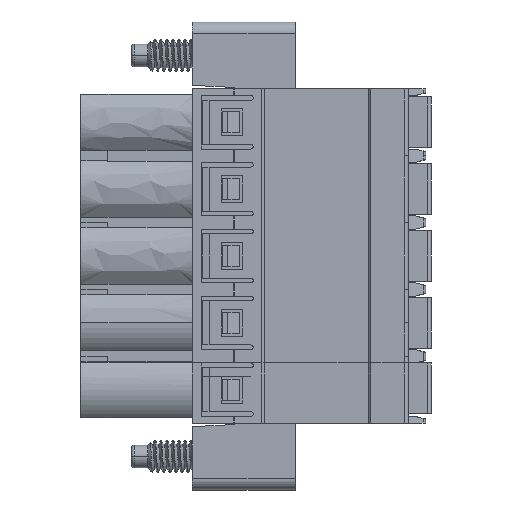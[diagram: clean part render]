
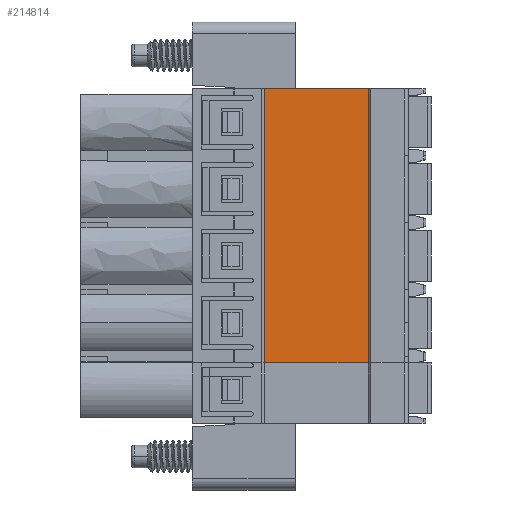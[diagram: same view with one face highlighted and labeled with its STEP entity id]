
A CAD part, front view. The second image highlights one B-rep face of the part: STEP entity #214814.
In plain terms, the highlighted free-form (B-spline) face has degree [1, 1] with [2, 2] control points.
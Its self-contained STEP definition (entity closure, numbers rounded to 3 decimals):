
#214814 = ADVANCED_FACE('',(#214815),#214828,.T.);
#214815 = FACE_BOUND('',#214816,.T.);
#214816 = EDGE_LOOP('',(#214817,#214839,#214853,#214867));
#214817 = ORIENTED_EDGE('',*,*,#214818,.F.);
#214818 = EDGE_CURVE('',#214819,#214821,#214823,.T.);
#214819 = VERTEX_POINT('',#214820);
#214820 = CARTESIAN_POINT('',(5.44,0.23,-40.));
#214821 = VERTEX_POINT('',#214822);
#214822 = CARTESIAN_POINT('',(13.19,0.23,-40.));
#214823 = SURFACE_CURVE('',#214824,(#214827),.PCURVE_S1.);
#214824 = B_SPLINE_CURVE_WITH_KNOTS('',1,(#214825,#214826),
  .UNSPECIFIED.,.F.,.F.,(2,2),(0.,1.),.PIECEWISE_BEZIER_KNOTS.);
#214825 = CARTESIAN_POINT('',(5.44,0.23,-40.));
#214826 = CARTESIAN_POINT('',(13.19,0.23,-40.));
#214827 = PCURVE('',#214828,#214833);
#214828 = B_SPLINE_SURFACE_WITH_KNOTS('',1,1,(
    (#214829,#214830)
    ,(#214831,#214832
  )),.UNSPECIFIED.,.F.,.F.,.F.,(2,2),(2,2),(0.59,1.),(0.,1.),
  .PIECEWISE_BEZIER_KNOTS.);
#214829 = CARTESIAN_POINT('',(13.19,0.23,-60.5));
#214830 = CARTESIAN_POINT('',(5.44,0.23,-60.5));
#214831 = CARTESIAN_POINT('',(13.19,0.23,-40.));
#214832 = CARTESIAN_POINT('',(5.44,0.23,-40.));
#214833 = DEFINITIONAL_REPRESENTATION('',(#214834),#214838);
#214834 = LINE('',#214835,#214836);
#214835 = CARTESIAN_POINT('',(1.,1.));
#214836 = VECTOR('',#214837,1.);
#214837 = DIRECTION('',(0.,-1.));
#214838 = ( GEOMETRIC_REPRESENTATION_CONTEXT(2) 
PARAMETRIC_REPRESENTATION_CONTEXT() REPRESENTATION_CONTEXT('2D SPACE',''
  ) );
#214839 = ORIENTED_EDGE('',*,*,#214840,.T.);
#214840 = EDGE_CURVE('',#214819,#214841,#214843,.T.);
#214841 = VERTEX_POINT('',#214842);
#214842 = CARTESIAN_POINT('',(5.44,0.23,-60.5));
#214843 = SURFACE_CURVE('',#214844,(#214847),.PCURVE_S1.);
#214844 = B_SPLINE_CURVE_WITH_KNOTS('',1,(#214845,#214846),
  .UNSPECIFIED.,.F.,.F.,(2,2),(0.,0.41),.PIECEWISE_BEZIER_KNOTS.);
#214845 = CARTESIAN_POINT('',(5.44,0.23,-40.));
#214846 = CARTESIAN_POINT('',(5.44,0.23,-60.5));
#214847 = PCURVE('',#214828,#214848);
#214848 = DEFINITIONAL_REPRESENTATION('',(#214849),#214852);
#214849 = B_SPLINE_CURVE_WITH_KNOTS('',1,(#214850,#214851),
  .UNSPECIFIED.,.F.,.F.,(2,2),(0.,0.41),.PIECEWISE_BEZIER_KNOTS.);
#214850 = CARTESIAN_POINT('',(1.,1.));
#214851 = CARTESIAN_POINT('',(0.59,1.));
#214852 = ( GEOMETRIC_REPRESENTATION_CONTEXT(2) 
PARAMETRIC_REPRESENTATION_CONTEXT() REPRESENTATION_CONTEXT('2D SPACE',''
  ) );
#214853 = ORIENTED_EDGE('',*,*,#214854,.T.);
#214854 = EDGE_CURVE('',#214841,#214855,#214857,.T.);
#214855 = VERTEX_POINT('',#214856);
#214856 = CARTESIAN_POINT('',(13.19,0.23,-60.5));
#214857 = SURFACE_CURVE('',#214858,(#214861),.PCURVE_S1.);
#214858 = B_SPLINE_CURVE_WITH_KNOTS('',1,(#214859,#214860),
  .UNSPECIFIED.,.F.,.F.,(2,2),(0.361,0.477),
  .PIECEWISE_BEZIER_KNOTS.);
#214859 = CARTESIAN_POINT('',(5.44,0.23,-60.5));
#214860 = CARTESIAN_POINT('',(13.19,0.23,-60.5));
#214861 = PCURVE('',#214828,#214862);
#214862 = DEFINITIONAL_REPRESENTATION('',(#214863),#214866);
#214863 = B_SPLINE_CURVE_WITH_KNOTS('',1,(#214864,#214865),
  .UNSPECIFIED.,.F.,.F.,(2,2),(0.361,0.477),
  .PIECEWISE_BEZIER_KNOTS.);
#214864 = CARTESIAN_POINT('',(0.59,1.));
#214865 = CARTESIAN_POINT('',(0.59,0.));
#214866 = ( GEOMETRIC_REPRESENTATION_CONTEXT(2) 
PARAMETRIC_REPRESENTATION_CONTEXT() REPRESENTATION_CONTEXT('2D SPACE',''
  ) );
#214867 = ORIENTED_EDGE('',*,*,#214868,.F.);
#214868 = EDGE_CURVE('',#214821,#214855,#214869,.T.);
#214869 = SURFACE_CURVE('',#214870,(#214873),.PCURVE_S1.);
#214870 = B_SPLINE_CURVE_WITH_KNOTS('',1,(#214871,#214872),
  .UNSPECIFIED.,.F.,.F.,(2,2),(0.,0.41),.PIECEWISE_BEZIER_KNOTS.);
#214871 = CARTESIAN_POINT('',(13.19,0.23,-40.));
#214872 = CARTESIAN_POINT('',(13.19,0.23,-60.5));
#214873 = PCURVE('',#214828,#214874);
#214874 = DEFINITIONAL_REPRESENTATION('',(#214875),#214878);
#214875 = B_SPLINE_CURVE_WITH_KNOTS('',1,(#214876,#214877),
  .UNSPECIFIED.,.F.,.F.,(2,2),(0.,0.41),.PIECEWISE_BEZIER_KNOTS.);
#214876 = CARTESIAN_POINT('',(1.,0.));
#214877 = CARTESIAN_POINT('',(0.59,0.));
#214878 = ( GEOMETRIC_REPRESENTATION_CONTEXT(2) 
PARAMETRIC_REPRESENTATION_CONTEXT() REPRESENTATION_CONTEXT('2D SPACE',''
  ) );
